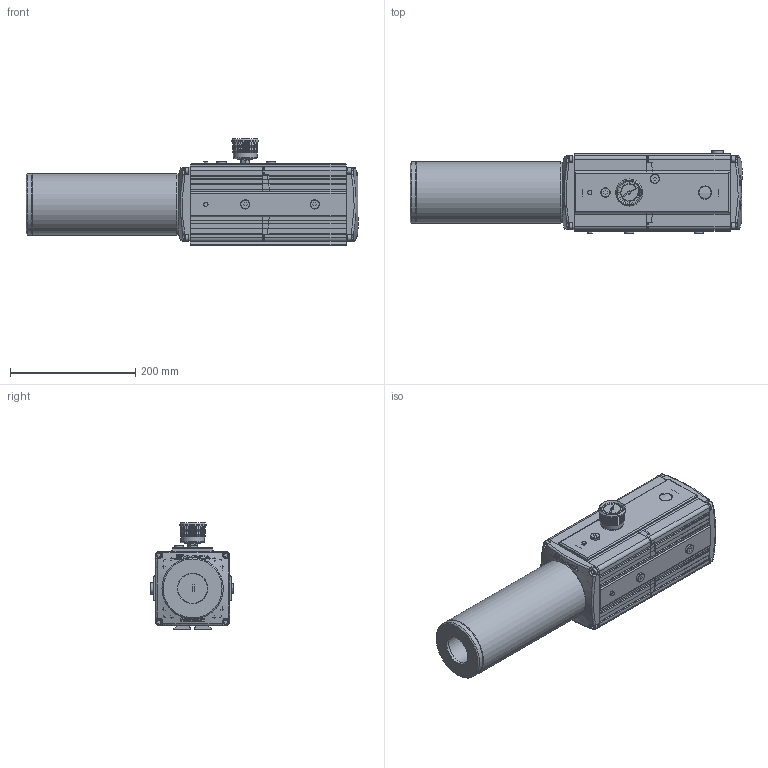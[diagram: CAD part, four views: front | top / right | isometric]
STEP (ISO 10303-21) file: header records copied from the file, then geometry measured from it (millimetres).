
FILE_DESCRIPTION( ( 'Unknown' ), '1' );
FILE_NAME( 'C:/Documents and Settings/Administrator/官帕 拳搁/3D Dimension/MPM303X5-02S.stp', 'Unknown', ( 'Unknown' ), ( 'Unknown' ), 'PSStep 10.0', 'Unknown', ' ' );
FILE_SCHEMA( ( 'AUTOMOTIVE_DESIGN { 1 0 10303 214 1 1 1 1 }' ) );
Length unit declared in the file: millimetre
Products named in the file (17): Assem1; SILENCER; COVER; ELEMENT; SPONGE; END CAP; M6-Bolt_0; END CAP-212_0; VTP-M5_0; red_0; VTP18_0; VTP14_0; END CAP-112_0; Vacuum Gauge_0; Body(re1)(dim); VTP-M5; VTP18
Bounding box: 530 x 134 x 169.5 mm (x, y, z)
Surface area: 1766696 mm2
Topology: 50 solids, 50 shells, 3335 faces, 8368 edges, 5357 vertices
Faces by surface type: plane 1904, cylinder 876, cone 226, bspline 96, sphere 96, extrusion 84, torus 49, revolution 4
Full cylindrical faces by diameter (mm): 0.274 x2, 0.884 x4, 1.008 x9, 4.075 x4, 4.2 x20, 4.552 x4, 6 x9, 6.337 x4, 6.5 x16, 6.8 x8, 8.8 x10, 9.6 x2, 9.8 x6, 10 x9, 11.9 x2, 12.7 x2, 14.8 x6, 18.2 x2, 19.2 x2, 23 x2, 24.6 x2, 38 x2, 43.2 x2, 44.8 x2, 47.6 x9, 62.5 x12, 72.2 x2, 72.9 x3, 75.2 x3, 86.5 x9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
Entity records: 63938 total; most frequent: CARTESIAN_POINT 14792, DIRECTION 7468, ORIENTED_EDGE 7358, EDGE_CURVE 3679, AXIS2_PLACEMENT_3D 2607, VERTEX_POINT 2455, VECTOR 2252, LINE 2210
